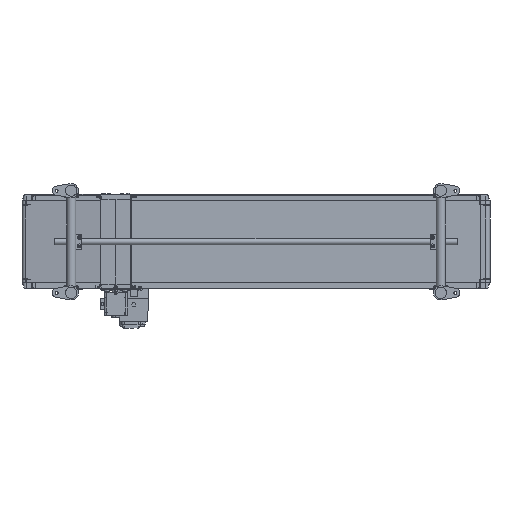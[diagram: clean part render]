
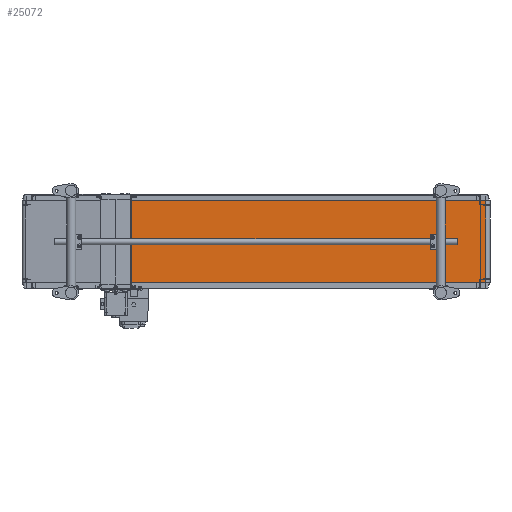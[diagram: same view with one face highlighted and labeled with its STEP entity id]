
A CAD part, front view. The second image highlights one B-rep face of the part: STEP entity #25072.
In plain terms, the highlighted planar face has unit normal (0.023, -1, 0).
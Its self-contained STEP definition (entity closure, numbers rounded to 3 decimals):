
#529 = ORIENTED_EDGE ( 'NONE', *, *, #16329, .F. ) ;
#8285 = CARTESIAN_POINT ( 'NONE',  ( 1982.907, -34.195, -175. ) ) ;
#15157 = EDGE_CURVE ( 'NONE', #69785, #66820, #84642, .T. ) ;
#16329 = EDGE_CURVE ( 'NONE', #74843, #83723, #34800, .T. ) ;
#21413 = DIRECTION ( 'NONE',  ( 1., 0.023, 0. ) ) ;
#25072 = ADVANCED_FACE ( 'NONE', ( #98685 ), #35414, .F. ) ;
#30162 = EDGE_CURVE ( 'NONE', #69785, #74843, #77909, .T. ) ;
#32329 = CARTESIAN_POINT ( 'NONE',  ( 1982.907, -34.195, -175. ) ) ;
#33041 = DIRECTION ( 'NONE',  ( -1., -0.023, 0. ) ) ;
#34602 = CARTESIAN_POINT ( 'NONE',  ( 434.607, -70.005, 175. ) ) ;
#34800 = LINE ( 'NONE', #62319, #79893 ) ;
#35414 = PLANE ( 'NONE',  #48569 ) ;
#36488 = DIRECTION ( 'NONE',  ( -1., -0.023, 0. ) ) ;
#37686 = VECTOR ( 'NONE', #33041, 1000. ) ;
#39069 = VECTOR ( 'NONE', #36488, 1000. ) ;
#40375 = CARTESIAN_POINT ( 'NONE',  ( 1982.907, -34.195, 175. ) ) ;
#47733 = LINE ( 'NONE', #40375, #37686 ) ;
#48569 = AXIS2_PLACEMENT_3D ( 'NONE', #77771, #93747, #21413 ) ;
#48920 = ORIENTED_EDGE ( 'NONE', *, *, #57017, .T. ) ;
#49318 = DIRECTION ( 'NONE',  ( 0., 0., 1. ) ) ;
#51640 = CARTESIAN_POINT ( 'NONE',  ( 1982.907, -34.195, 175. ) ) ;
#55783 = ORIENTED_EDGE ( 'NONE', *, *, #30162, .F. ) ;
#56388 = DIRECTION ( 'NONE',  ( 0., 0., 1. ) ) ;
#57017 = EDGE_CURVE ( 'NONE', #66820, #83723, #47733, .T. ) ;
#62319 = CARTESIAN_POINT ( 'NONE',  ( 434.607, -70.005, -175. ) ) ;
#64436 = ORIENTED_EDGE ( 'NONE', *, *, #15157, .T. ) ;
#64562 = CARTESIAN_POINT ( 'NONE',  ( 434.607, -70.005, -175. ) ) ;
#66494 = CARTESIAN_POINT ( 'NONE',  ( 1982.907, -34.195, -175. ) ) ;
#66820 = VERTEX_POINT ( 'NONE', #51640 ) ;
#69785 = VERTEX_POINT ( 'NONE', #32329 ) ;
#74657 = VECTOR ( 'NONE', #49318, 1000. ) ;
#74843 = VERTEX_POINT ( 'NONE', #64562 ) ;
#77771 = CARTESIAN_POINT ( 'NONE',  ( 1982.907, -34.195, -175. ) ) ;
#77909 = LINE ( 'NONE', #8285, #39069 ) ;
#79893 = VECTOR ( 'NONE', #56388, 1000. ) ;
#83723 = VERTEX_POINT ( 'NONE', #34602 ) ;
#84642 = LINE ( 'NONE', #66494, #74657 ) ;
#92600 = EDGE_LOOP ( 'NONE', ( #48920, #529, #55783, #64436 ) ) ;
#93747 = DIRECTION ( 'NONE',  ( -0.023, 1., 0. ) ) ;
#98685 = FACE_OUTER_BOUND ( 'NONE', #92600, .T. ) ;
